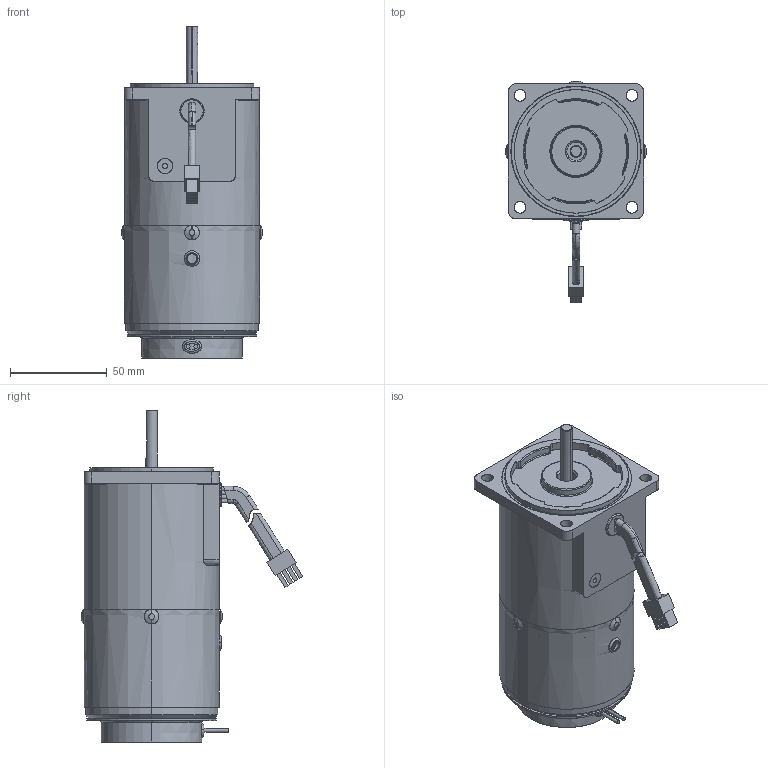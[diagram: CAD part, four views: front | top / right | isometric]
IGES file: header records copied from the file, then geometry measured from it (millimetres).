
Start section: SolidWorks IGES file using analytic representation for surfaces
Bounding box: 73 x 114.9 x 172 mm (x, y, z)
Surface area: 104341.1 mm2 (no closed solid volume)
Topology: 0 solids, 0 shells, 365 faces, 7066 edges, 7066 vertices
Faces by surface type: bspline 205, revolution 160
